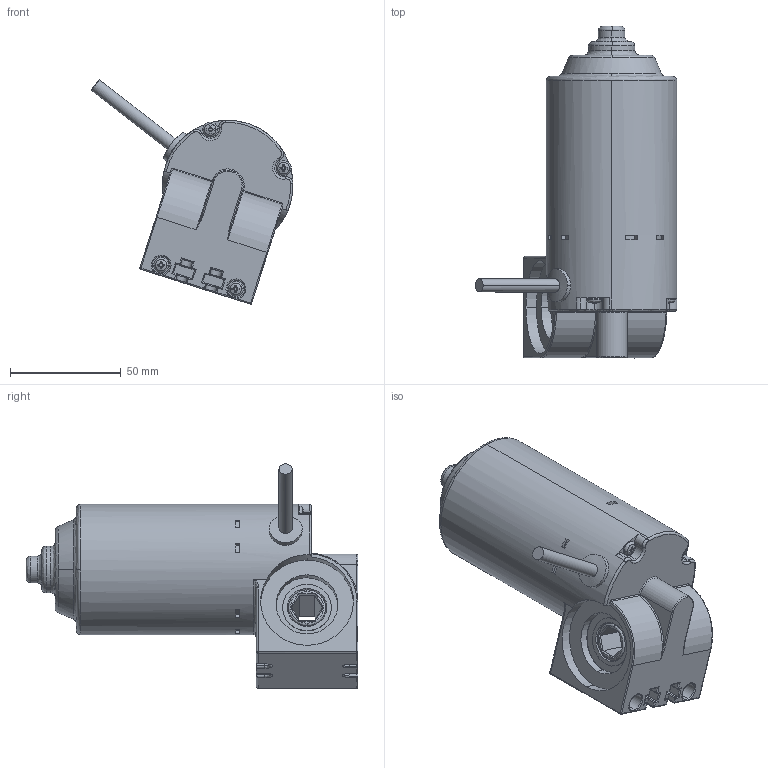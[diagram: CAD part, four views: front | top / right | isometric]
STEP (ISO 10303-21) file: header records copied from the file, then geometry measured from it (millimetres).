
FILE_DESCRIPTION (( 'STEP AP203' ), '1' );
FILE_NAME ('DKM3.STEP', '2019-11-21T01:29:02', ( 'lynn' ), ( '' ), 'SwSTEP 2.0', 'SolidWorks 2015', '' );
FILE_SCHEMA (( 'CONFIG_CONTROL_DESIGN' ));
Length unit declared in the file: millimetre
Products named in the file (1): DKM3
Bounding box: 91.24 x 150 x 101.46 mm (x, y, z)
Volume: 139829.1 mm3; surface area: 86734.1 mm2
Topology: 1 solids, 14 shells, 1311 faces, 3619 edges, 2352 vertices
Faces by surface type: plane 474, cylinder 413, bspline 371, cone 53
Entity records: 60118 total; most frequent: CARTESIAN_POINT 30480, ORIENTED_EDGE 7164, DIRECTION 4777, EDGE_CURVE 3582, VERTEX_POINT 2352, AXIS2_PLACEMENT_3D 1788, EDGE_LOOP 1404, B_SPLINE_CURVE_WITH_KNOTS 1398
